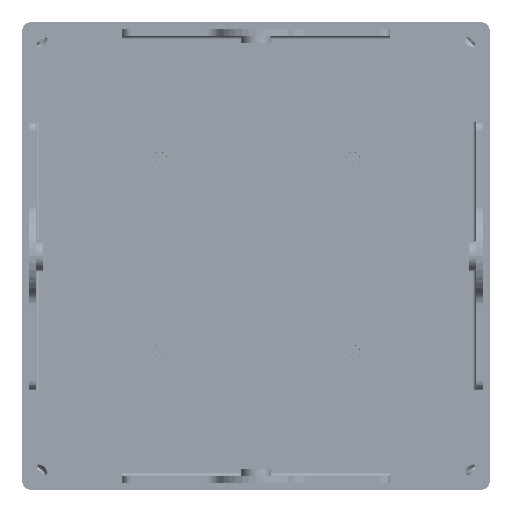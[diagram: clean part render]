
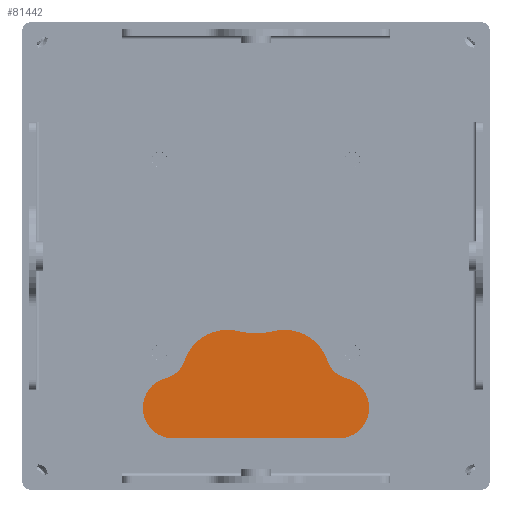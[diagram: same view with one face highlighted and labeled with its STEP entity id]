
A CAD part, front view. The second image highlights one B-rep face of the part: STEP entity #81442.
In plain terms, the highlighted planar face has unit normal (0, -1, 0).
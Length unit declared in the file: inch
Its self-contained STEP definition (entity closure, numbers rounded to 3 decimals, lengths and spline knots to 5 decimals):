
#473 = FACE_OUTER_BOUND ( 'NONE', #42298, .T. ) ;
#2510 = AXIS2_PLACEMENT_3D ( 'NONE', #135121, #45968, #150107 ) ;
#3543 = CIRCLE ( 'NONE', #72153, 0.25787 ) ;
#14688 = CARTESIAN_POINT ( 'NONE',  ( 0.8125, -1.5, -0.8125 ) ) ;
#17525 = DIRECTION ( 'NONE',  ( 0., 1., 0. ) ) ;
#19759 = CARTESIAN_POINT ( 'NONE',  ( 0.75804, -1.5, -1.0277 ) ) ;
#20213 = DIRECTION ( 'NONE',  ( 0., 1., 0. ) ) ;
#22287 = PLANE ( 'NONE',  #93093 ) ;
#27722 = CIRCLE ( 'NONE', #142569, 0.37826 ) ;
#28818 = LINE ( 'NONE', #164957, #182467 ) ;
#29723 = DIRECTION ( 'NONE',  ( 0., 0., 1. ) ) ;
#30611 = ORIENTED_EDGE ( 'NONE', *, *, #135191, .F. ) ;
#31965 = DIRECTION ( 'NONE',  ( 0., 1., 0. ) ) ;
#32181 = CIRCLE ( 'NONE', #2510, 0.37826 ) ;
#33389 = ORIENTED_EDGE ( 'NONE', *, *, #98853, .T. ) ;
#35263 = ORIENTED_EDGE ( 'NONE', *, *, #58051, .F. ) ;
#35396 = AXIS2_PLACEMENT_3D ( 'NONE', #106685, #17525, #121627 ) ;
#37942 = CARTESIAN_POINT ( 'NONE',  ( -1.9685, -1.5, 1.9685 ) ) ;
#39405 = VERTEX_POINT ( 'NONE', #86553 ) ;
#42298 = EDGE_LOOP ( 'NONE', ( #72381, #30611, #35263, #49321, #135630, #179963, #142711, #33389, #170887, #135771 ) ) ;
#43136 = CIRCLE ( 'NONE', #73814, 0.25787 ) ;
#45968 = DIRECTION ( 'NONE',  ( 0., 1., 0. ) ) ;
#46545 = DIRECTION ( 'NONE',  ( 0., -1., 0. ) ) ;
#49321 = ORIENTED_EDGE ( 'NONE', *, *, #166693, .F. ) ;
#50319 = CARTESIAN_POINT ( 'NONE',  ( 0.69477, -1.5, -1.27768 ) ) ;
#50674 = EDGE_CURVE ( 'NONE', #53091, #82980, #43136, .T. ) ;
#52811 = DIRECTION ( 'NONE',  ( 0., 0., 1. ) ) ;
#53091 = VERTEX_POINT ( 'NONE', #160020 ) ;
#53758 = EDGE_CURVE ( 'NONE', #178200, #147658, #95634, .T. ) ;
#58051 = EDGE_CURVE ( 'NONE', #161788, #39405, #129130, .T. ) ;
#60830 = DIRECTION ( 'NONE',  ( -1., 0., 0. ) ) ;
#62469 = AXIS2_PLACEMENT_3D ( 'NONE', #14688, #118796, #29723 ) ;
#65187 = DIRECTION ( 'NONE',  ( 0., -1., 0. ) ) ;
#65282 = DIRECTION ( 'NONE',  ( 0., 0., 1. ) ) ;
#68727 = CARTESIAN_POINT ( 'NONE',  ( 0., -1.5, 0. ) ) ;
#72153 = AXIS2_PLACEMENT_3D ( 'NONE', #154387, #65187, #169298 ) ;
#72381 = ORIENTED_EDGE ( 'NONE', *, *, #112799, .F. ) ;
#73814 = AXIS2_PLACEMENT_3D ( 'NONE', #50319, #154486, #65282 ) ;
#76905 = VERTEX_POINT ( 'NONE', #149530 ) ;
#76982 = AXIS2_PLACEMENT_3D ( 'NONE', #135703, #46545, #150653 ) ;
#77046 = CIRCLE ( 'NONE', #99937, 0.37826 ) ;
#77676 = CIRCLE ( 'NONE', #62469, 0.22198 ) ;
#81442 = ADVANCED_FACE ( 'NONE', ( #473 ), #22287, .F. ) ;
#82980 = VERTEX_POINT ( 'NONE', #19759 ) ;
#83767 = DIRECTION ( 'NONE',  ( 0., 0., 1. ) ) ;
#86553 = CARTESIAN_POINT ( 'NONE',  ( 0.24227, -1.5, -0.62166 ) ) ;
#93019 = CIRCLE ( 'NONE', #143260, 0.65059 ) ;
#93093 = AXIS2_PLACEMENT_3D ( 'NONE', #37942, #141981, #52811 ) ;
#95634 = CIRCLE ( 'NONE', #76982, 0.22198 ) ;
#98853 = EDGE_CURVE ( 'NONE', #178200, #187438, #3543, .T. ) ;
#99937 = AXIS2_PLACEMENT_3D ( 'NONE', #109366, #20213, #124259 ) ;
#101356 = EDGE_CURVE ( 'NONE', #76905, #104935, #27722, .T. ) ;
#104935 = VERTEX_POINT ( 'NONE', #163529 ) ;
#106685 = CARTESIAN_POINT ( 'NONE',  ( 0.24227, -1.5, -0.99992 ) ) ;
#109366 = CARTESIAN_POINT ( 'NONE',  ( 0.24227, -1.5, -0.99992 ) ) ;
#111159 = EDGE_CURVE ( 'NONE', #147658, #76905, #32181, .T. ) ;
#111641 = VERTEX_POINT ( 'NONE', #132350 ) ;
#112799 = EDGE_CURVE ( 'NONE', #111641, #82980, #77676, .T. ) ;
#118063 = EDGE_CURVE ( 'NONE', #53091, #187438, #28818, .T. ) ;
#118796 = DIRECTION ( 'NONE',  ( 0., -1., 0. ) ) ;
#120992 = CARTESIAN_POINT ( 'NONE',  ( -0.24227, -1.5, -0.99992 ) ) ;
#121627 = DIRECTION ( 'NONE',  ( 0., 0., 1. ) ) ;
#124259 = DIRECTION ( 'NONE',  ( 0., 0., 1. ) ) ;
#127419 = CARTESIAN_POINT ( 'NONE',  ( 0.1532, -1.5, -0.6323 ) ) ;
#127577 = CARTESIAN_POINT ( 'NONE',  ( -0.75804, -1.5, -1.0277 ) ) ;
#129130 = CIRCLE ( 'NONE', #35396, 0.37826 ) ;
#132350 = CARTESIAN_POINT ( 'NONE',  ( 0.60162, -1.5, -0.88181 ) ) ;
#135121 = CARTESIAN_POINT ( 'NONE',  ( -0.24227, -1.5, -0.99992 ) ) ;
#135191 = EDGE_CURVE ( 'NONE', #39405, #111641, #77046, .T. ) ;
#135630 = ORIENTED_EDGE ( 'NONE', *, *, #101356, .F. ) ;
#135703 = CARTESIAN_POINT ( 'NONE',  ( -0.8125, -1.5, -0.8125 ) ) ;
#135771 = ORIENTED_EDGE ( 'NONE', *, *, #50674, .T. ) ;
#135957 = DIRECTION ( 'NONE',  ( 0., 0., -1. ) ) ;
#141981 = DIRECTION ( 'NONE',  ( 0., 1., 0. ) ) ;
#142569 = AXIS2_PLACEMENT_3D ( 'NONE', #120992, #31965, #135957 ) ;
#142711 = ORIENTED_EDGE ( 'NONE', *, *, #53758, .F. ) ;
#143260 = AXIS2_PLACEMENT_3D ( 'NONE', #68727, #172874, #83767 ) ;
#147658 = VERTEX_POINT ( 'NONE', #156265 ) ;
#149530 = CARTESIAN_POINT ( 'NONE',  ( -0.24227, -1.5, -0.62166 ) ) ;
#150107 = DIRECTION ( 'NONE',  ( 0., 0., -1. ) ) ;
#150653 = DIRECTION ( 'NONE',  ( 0., 0., -1. ) ) ;
#154387 = CARTESIAN_POINT ( 'NONE',  ( -0.69477, -1.5, -1.27768 ) ) ;
#154486 = DIRECTION ( 'NONE',  ( 0., -1., 0. ) ) ;
#156265 = CARTESIAN_POINT ( 'NONE',  ( -0.60162, -1.5, -0.88181 ) ) ;
#160020 = CARTESIAN_POINT ( 'NONE',  ( 0.69477, -1.5, -1.53555 ) ) ;
#161788 = VERTEX_POINT ( 'NONE', #127419 ) ;
#163529 = CARTESIAN_POINT ( 'NONE',  ( -0.1532, -1.5, -0.6323 ) ) ;
#164957 = CARTESIAN_POINT ( 'NONE',  ( 0.79265, -1.5, -1.53555 ) ) ;
#166693 = EDGE_CURVE ( 'NONE', #104935, #161788, #93019, .T. ) ;
#169298 = DIRECTION ( 'NONE',  ( 0., 0., 1. ) ) ;
#170887 = ORIENTED_EDGE ( 'NONE', *, *, #118063, .F. ) ;
#172874 = DIRECTION ( 'NONE',  ( 0., -1., 0. ) ) ;
#175205 = CARTESIAN_POINT ( 'NONE',  ( -0.69477, -1.5, -1.53555 ) ) ;
#178200 = VERTEX_POINT ( 'NONE', #127577 ) ;
#179963 = ORIENTED_EDGE ( 'NONE', *, *, #111159, .F. ) ;
#182467 = VECTOR ( 'NONE', #60830, 39.37008 ) ;
#187438 = VERTEX_POINT ( 'NONE', #175205 ) ;
